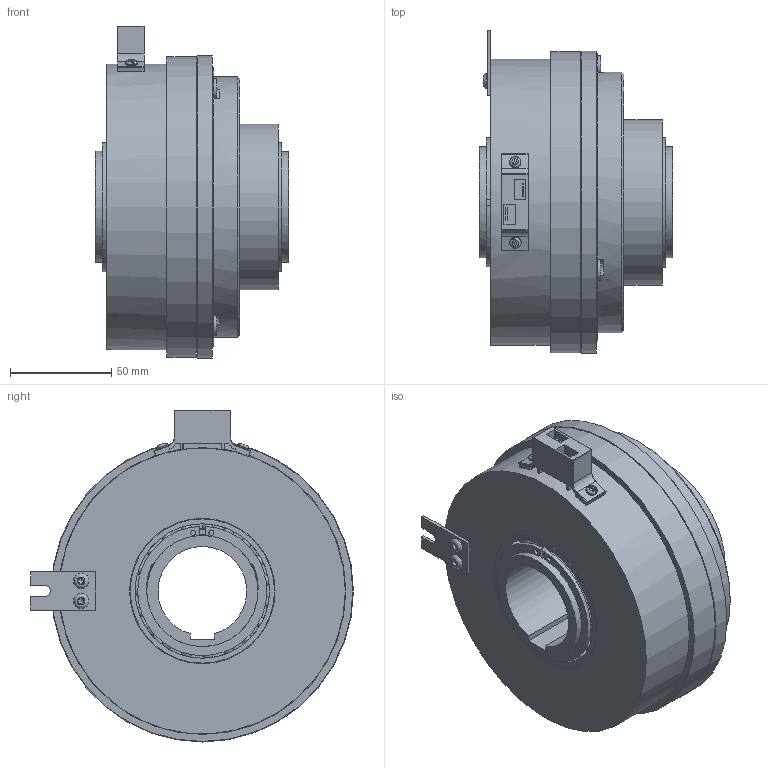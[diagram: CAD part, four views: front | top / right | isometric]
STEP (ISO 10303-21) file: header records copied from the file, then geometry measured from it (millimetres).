
FILE_DESCRIPTION(/* description */ (''),/* implementation_level */ '2;1');
FILE_NAME(/* name */ 'X:\INVENTOR\DISEGNI\08_Freni_Friz_Elettmag_Monodisco\08_26 EMSL_DF\EMSL_DF STEP\Tipo R\08_26_150_41 EMSL150_DF-R_Con@STEP.stp',/* time_stamp */ '2019-02-06T08:46:39+01:00',/* author */ ('stefano'),/* organization */ (''),/* preprocessor_version */ 'ST-DEVELOPER v17',/* originating_system */ 'Autodesk Inventor 2018',/* authorisation */ '');
FILE_SCHEMA (('AUTOMOTIVE_DESIGN { 1 0 10303 214 3 1 1 }'));
Products named in the file (1): 08_26_150_41 EMSL150_DF-R - Spina_Substitute_1
Bounding box: 96 x 159.75 x 164.35 mm (x, y, z)
Volume: 747374 mm3; surface area: 230378.7 mm2
Topology: 1 solids, 1 shells, 938 faces, 3320 edges, 2182 vertices
Faces by surface type: cylinder 314, plane 249, torus 239, sphere 115, cone 19, bspline 2
Full cylindrical faces by diameter (mm): 2.2 x3, 2.5 x4, 3 x4, 4.917 x6, 5.6 x2, 6 x1, 6.1 x6, 6.647 x3, 7.5 x3, 7.6 x2, 8 x3, 8.1 x3, 10 x6, 11 x3, 13 x3, 52 x2, 55 x7, 60.44 x10, 62 x2, 66.56 x10, 71.5 x1, 72 x8, 75 x2, 82 x1, 95 x1, 96 x2, 126 x2, 129 x1, 132 x1, 141.5 x1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
Entity records: 45470 total; most frequent: CARTESIAN_POINT 16839, ORIENTED_EDGE 6208, DIRECTION 5784, EDGE_CURVE 3104, AXIS2_PLACEMENT_3D 2573, VERTEX_POINT 2182, CIRCLE 1636, EDGE_LOOP 1266
